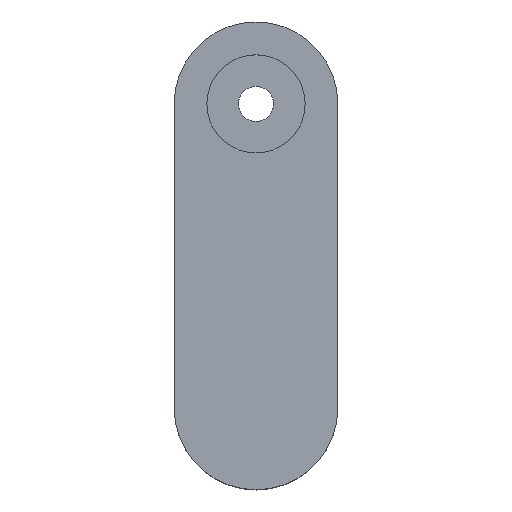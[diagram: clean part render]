
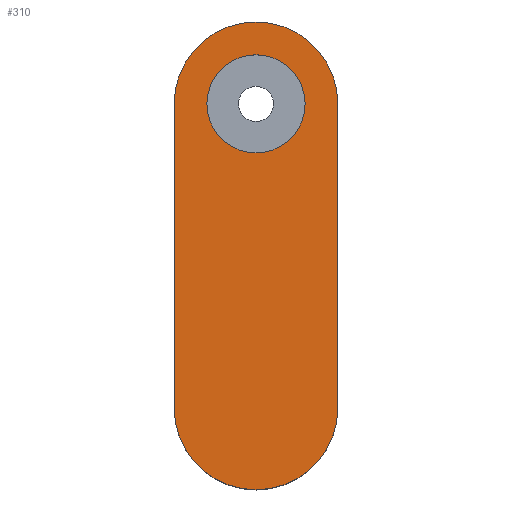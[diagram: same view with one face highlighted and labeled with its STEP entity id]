
A CAD part, top view. The second image highlights one B-rep face of the part: STEP entity #310.
In plain terms, the highlighted planar face has unit normal (0, 0, 1).
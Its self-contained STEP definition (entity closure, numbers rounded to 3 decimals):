
#19=FACE_BOUND('',#82,.T.);
#39=CIRCLE('',#359,7.);
#40=CIRCLE('',#360,7.);
#41=CIRCLE('',#361,4.2);
#56=FACE_OUTER_BOUND('',#81,.T.);
#81=EDGE_LOOP('',(#252,#253,#254,#255));
#82=EDGE_LOOP('',(#256));
#105=LINE('',#534,#129);
#106=LINE('',#538,#130);
#129=VECTOR('',#442,10.);
#130=VECTOR('',#445,10.);
#156=VERTEX_POINT('',#532);
#157=VERTEX_POINT('',#533);
#158=VERTEX_POINT('',#535);
#159=VERTEX_POINT('',#537);
#160=VERTEX_POINT('',#540);
#190=EDGE_CURVE('',#156,#157,#105,.T.);
#191=EDGE_CURVE('',#157,#158,#39,.T.);
#192=EDGE_CURVE('',#158,#159,#106,.T.);
#193=EDGE_CURVE('',#159,#156,#40,.T.);
#194=EDGE_CURVE('',#160,#160,#41,.T.);
#252=ORIENTED_EDGE('',*,*,#190,.T.);
#253=ORIENTED_EDGE('',*,*,#191,.T.);
#254=ORIENTED_EDGE('',*,*,#192,.T.);
#255=ORIENTED_EDGE('',*,*,#193,.T.);
#256=ORIENTED_EDGE('',*,*,#194,.T.);
#293=PLANE('',#358);
#310=ADVANCED_FACE('',(#56,#19),#293,.T.);
#358=AXIS2_PLACEMENT_3D('',#531,#440,#441);
#359=AXIS2_PLACEMENT_3D('',#536,#443,#444);
#360=AXIS2_PLACEMENT_3D('',#539,#446,#447);
#361=AXIS2_PLACEMENT_3D('',#541,#448,#449);
#440=DIRECTION('center_axis',(0.,0.,1.));
#441=DIRECTION('ref_axis',(1.,0.,0.));
#442=DIRECTION('',(0.,1.,0.));
#443=DIRECTION('center_axis',(0.,0.,1.));
#444=DIRECTION('ref_axis',(1.,0.,0.));
#445=DIRECTION('',(0.,-1.,0.));
#446=DIRECTION('center_axis',(0.,0.,1.));
#447=DIRECTION('ref_axis',(-1.,0.,0.));
#448=DIRECTION('center_axis',(0.,0.,-1.));
#449=DIRECTION('ref_axis',(1.,0.,0.));
#531=CARTESIAN_POINT('Origin',(7.,13.,8.));
#532=CARTESIAN_POINT('',(14.,0.,8.));
#533=CARTESIAN_POINT('',(14.,26.,8.));
#534=CARTESIAN_POINT('',(14.,6.5,8.));
#535=CARTESIAN_POINT('',(0.,26.,8.));
#536=CARTESIAN_POINT('Origin',(7.,26.,8.));
#537=CARTESIAN_POINT('',(0.,0.,8.));
#538=CARTESIAN_POINT('',(0.,19.5,8.));
#539=CARTESIAN_POINT('Origin',(7.,0.,8.));
#540=CARTESIAN_POINT('',(2.8,26.,8.));
#541=CARTESIAN_POINT('Origin',(7.,26.,8.));
